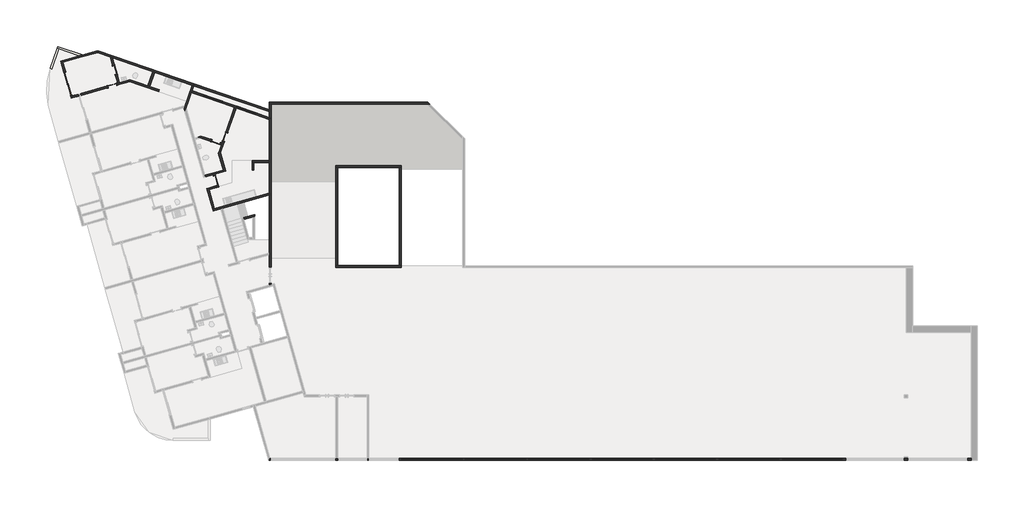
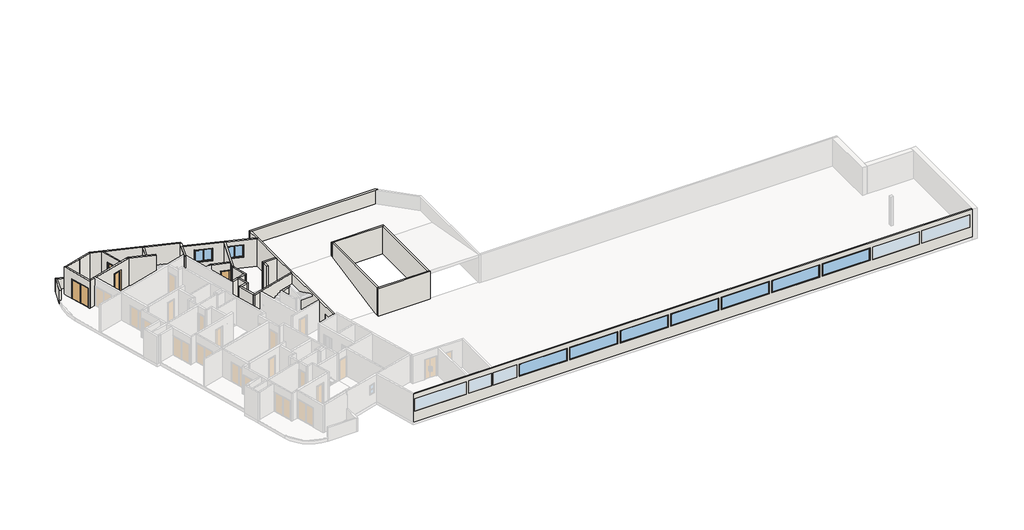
# One storey, part 3 of 4: 34 walls, 9 windows, 6 doors.
"""IFC4 building model written with IfcOpenShell, lengths in millimetres."""

from ifc_helpers import new_model, si_unit, frame, origin, place, context, project, spatial, polyline, outline, extrude, faceted_brep, transform, mapped, element, save
from components import p2_80cm_9d4be4ef, p3_70cm_ef4d15e3, p3_70cm_0a698c7c, p4_correr_200cm_eaaa0877, jx_160cm_e9e36a0c, m_fixo1_jf_4_75m_a83b1cd6

model = new_model("IFC4")

# Units and contexts
model_context = context("Model", 3, world=origin())
ifc_project = project(units=[si_unit("LENGTHUNIT", "METRE", prefix="MILLI")], contexts=[model_context])

# Site, building, storey
site = spatial("IfcSite", under=ifc_project)
building = spatial("IfcBuilding", under=site)
storey = spatial("IfcBuildingStorey", under=building, Name="Garagem 2", Elevation=44950.0)

# Doors
placement = place(None, origin())
p2_80cm_shape = p2_80cm_9d4be4ef(model_context)
element("IfcDoor", 1, ObjectType="M_Folha única1 : P2 - 80CM", at=placement, inside=storey, context=model_context, shape_type="MappedRepresentation", body=[
    mapped(p2_80cm_shape, transform((-79349.4097406, 25479.1041247, 44950.0), x_axis=(-0.27176796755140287, 0.962362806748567, 0.0), y_axis=(-0.962362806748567, -0.27176796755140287, 0.0), z_axis=(0.0, 0.0, 1.0))),
])
p3_70cm_shape = p3_70cm_ef4d15e3(model_context)
element("IfcDoor", 2, ObjectType="M_Folha única1 : P3 - 70CM", at=placement, inside=storey, context=model_context, shape_type="MappedRepresentation", body=[
    mapped(p3_70cm_shape, transform((-87513.806232, 32980.5300491, 44950.0), x_axis=(0.9623628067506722, 0.2717679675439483, 0.0), y_axis=(-0.2717679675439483, 0.9623628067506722, 0.0), z_axis=(0.0, 0.0, 1.0))),
])
p3_70cm_2_shape = p3_70cm_0a698c7c(model_context)
element("IfcDoor", 3, ObjectType="M_Folha única1 : P3 - 70CM", at=placement, inside=storey, context=model_context, shape_type="MappedRepresentation", body=[
    mapped(p3_70cm_2_shape, transform((-87314.304722, 34205.8663896, 44950.0), x_axis=(-0.2717679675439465, 0.9623628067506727, 0.0), y_axis=(-0.9623628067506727, -0.2717679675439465, 0.0), z_axis=(0.0, 0.0, 1.0))),
])
element("IfcDoor", 4, ObjectType="M_Folha única1 : P3 - 70CM", at=placement, inside=storey, context=model_context, shape_type="MappedRepresentation", body=[
    mapped(p3_70cm_2_shape, transform((-79346.1223746, 28509.6973665, 44950.0), x_axis=(0.9449109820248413, -0.32732741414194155, 0.0), y_axis=(0.32732741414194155, 0.9449109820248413, 0.0), z_axis=(0.0, 0.0, 1.0))),
])
element("IfcDoor", 5, ObjectType="M_Folha única1 : P3 - 70CM", at=placement, inside=storey, context=model_context, shape_type="MappedRepresentation", body=[
    mapped(p3_70cm_2_shape, transform((-78626.5662556, 28921.8732895, 44950.0), x_axis=(-0.32732741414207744, -0.9449109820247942, 0.0), y_axis=(0.9449109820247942, -0.32732741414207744, 0.0), z_axis=(0.0, 0.0, 1.0))),
])
p4_correr_200cm_shape = p4_correr_200cm_eaaa0877(model_context)
element("IfcDoor", 6, ObjectType="Porta de correr dupla envidraçada sem revestimento : P4 - CORRER - 200CM", at=placement, inside=storey, context=model_context, shape_type="MappedRepresentation", body=[
    mapped(p4_correr_200cm_shape, transform((-91005.8131296, 33111.4415743, 44950.0), x_axis=(0.2717679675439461, -0.9623628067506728, 0.0), y_axis=(0.9623628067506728, 0.2717679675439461, 0.0), z_axis=(0.0, 0.0, 1.0))),
])

# Walls
element("IfcWall", 7, ObjectType="Básica .15 - Externa", at=placement, inside=storey, context=model_context, shape_type="Brep", body=[
    faceted_brep([(-88662.6343714, 35591.588263, 44950.0), (-87688.240739, 35254.0477389, 44950.0), (-87515.4733556, 35194.1992432, 44950.0), (-84326.6881589, 34089.5694606, 44950.0), (-84184.9515116, 34040.4703485, 44950.0), (-81226.8582774, 33015.7547641, 44950.0), (-81156.3583355, 32991.3328194, 44950.0), (-81156.3583355, 32991.3328194, 46250.0), (-81085.1216301, 32966.655652, 46250.0), (-81085.1216301, 32966.655652, 47550.0), (-81156.3583355, 32991.3328194, 47550.0), (-81156.3583355, 32991.3328194, 47850.0), (-81226.8582774, 33015.7547641, 47850.0), (-84184.9515116, 34040.4703485, 47850.0), (-84326.6881589, 34089.5694606, 47850.0), (-87515.4733556, 35194.1992432, 47850.0), (-87688.240739, 35254.0477389, 47850.0), (-88662.6343714, 35591.588263, 47850.0), (-88658.0562773, 35748.7474739, 44950.0), (-88658.0562773, 35748.7474739, 47850.0), (-81107.2592234, 33133.0694667, 47850.0), (-81107.2592234, 33133.0694667, 47550.0), (-81036.022518, 33108.3922993, 47550.0), (-81036.022518, 33108.3922993, 46250.0), (-81107.2592234, 33133.0694667, 46250.0), (-81107.2592234, 33133.0694667, 44950.0)], [[[0, 1, 2, 3, 4, 5, 6, 7, 8, 9, 10, 11, 12, 13, 14, 15, 16, 17]], [[18, 19, 20, 21, 22, 23, 24, 25]], [[6, 5, 4, 3, 2, 1, 0, 18, 25]], [[17, 16, 15, 14, 13, 12, 11, 20, 19]], [[0, 17, 19, 18]], [[7, 6, 25, 24]], [[23, 8, 7, 24]], [[11, 10, 21, 20]], [[21, 10, 9, 22]], [[9, 8, 23, 22]]]),
])
element("IfcWall", 8, ObjectType="Básica .15 -  Interna", at=placement, inside=storey, context=model_context, shape_type="Brep", body=[
    faceted_brep([(-81789.2550074, 30934.0017027, 44950.0), (-81703.3880158, 31181.8778654, 44950.0), (-81272.8781344, 32424.6503839, 44950.0), (-81223.7790223, 32566.3870312, 44950.0), (-81085.1216301, 32966.655652, 44950.0), (-81085.1216301, 32966.655652, 46250.0), (-81085.1216301, 32966.655652, 47550.0), (-81085.1216301, 32966.655652, 47850.0), (-81223.7790223, 32566.3870312, 47850.0), (-81272.8781344, 32424.6503839, 47850.0), (-81703.3880158, 31181.8778654, 47850.0), (-81789.2550074, 30934.0017027, 47850.0), (-81860.5472267, 31186.4559595, 44950.0), (-81860.5472267, 31186.4559595, 47850.0), (-81845.4155775, 31230.1371819, 47850.0), (-81785.5670817, 31402.9045654, 47850.0), (-81226.8582774, 33015.7547641, 47850.0), (-81226.8582774, 33015.7547641, 44950.0), (-81785.5670817, 31402.9045654, 44950.0), (-81845.4155775, 31230.1371819, 44950.0), (-81156.3583355, 32991.3328194, 44950.0), (-81156.3583355, 32991.3328194, 47850.0)], [[[0, 1, 2, 3, 4, 5, 6, 7, 8, 9, 10, 11]], [[12, 13, 14, 15, 16, 17, 18, 19]], [[4, 3, 2, 1, 0, 12, 19, 18, 17, 20]], [[11, 10, 9, 8, 7, 21, 16, 15, 14, 13]], [[0, 11, 13, 12]], [[4, 20, 17, 16, 21, 7, 6, 5]]]),
])
element("IfcWall", 9, ObjectType="Básica .15 -  Interna", at=placement, inside=storey, context=model_context, shape_type="Brep", body=[
    faceted_brep([(-91449.9950574, 34960.3135045, 47850.0), (-91409.2298622, 34815.9590835, 47850.0), (-90661.8679515, 32169.4613651, 47850.0), (-90621.1027564, 32025.1069441, 47850.0), (-90621.1027564, 32025.1069441, 44950.0), (-90661.8679515, 32169.4613651, 44950.0), (-90661.8679515, 32169.4613651, 47050.0), (-91205.4038866, 34094.1869786, 47050.0), (-91205.4038866, 34094.1869786, 44950.0), (-91409.2298622, 34815.9590835, 44950.0), (-91449.9950574, 34960.3135045, 44950.0), (-90765.4571774, 31984.341749, 47850.0), (-91594.3494784, 34919.5483093, 47850.0), (-91594.3494784, 34919.5483093, 44950.0), (-91349.7583076, 34053.4217835, 44950.0), (-91349.7583076, 34053.4217835, 47050.0), (-90806.2223725, 32128.69617, 47050.0), (-90806.2223725, 32128.69617, 44950.0), (-90765.4571774, 31984.341749, 44950.0)], [[[0, 1, 2, 3, 4, 5, 6, 7, 8, 9, 10]], [[11, 12, 13, 14, 15, 16, 17, 18]], [[4, 18, 17, 5]], [[13, 10, 9, 8, 14]], [[3, 2, 1, 0, 12, 11]], [[4, 3, 11, 18]], [[16, 6, 5, 17]], [[6, 16, 15, 7]], [[7, 15, 14, 8]], [[0, 10, 13, 12]]]),
])
element("IfcWall", 10, ObjectType="Básica .15 - Externa", at=placement, inside=storey, context=model_context, shape_type="Brep", body=[
    faceted_brep([(-91871.4376954, 35923.0920443, 44650.0), (-91729.7010481, 35873.9929322, 44650.0), (-90151.0501028, 35327.1311202, 44650.0), (-90151.0501028, 35327.1311202, 46050.0), (-91729.7010481, 35873.9929322, 46050.0), (-91871.4376954, 35923.0920443, 46050.0), (-91822.3385833, 36064.8286916, 44650.0), (-91822.3385833, 36064.8286916, 46050.0), (-89898.595846, 35398.4233395, 46050.0), (-89898.595846, 35398.4233395, 44650.0)], [[[0, 1, 2, 3, 4, 5]], [[6, 7, 8, 9]], [[2, 1, 0, 6, 9]], [[5, 4, 3, 8, 7]], [[0, 5, 7, 6]], [[3, 2, 9, 8]]]),
])
element("IfcWall", 11, ObjectType="Básica .15 - Externa", at=placement, inside=storey, context=model_context, shape_type="SweptSolid", body=[
    extrude(outline(polyline([(-91729.7010481, 35873.9929322), (-92280.2794148, 34284.6132387), (-92422.0160621, 34333.7123509), (-91871.4376954, 35923.0920443), (-91729.7010481, 35873.9929322)])), frame((0.0, 0.0, 44650.0), z_axis=(0.0, 0.0, 1.0), x_axis=(1.0, 0.0, 0.0)), (0.0, 0.0, 1.0), 1400.0),
])
element("IfcWall", 12, ObjectType="Básica .15 -  Interna", at=placement, inside=storey, context=model_context, shape_type="Brep", body=[
    faceted_brep([(-79570.9048554, 23078.5590693, 44950.0), (-78948.2127609, 23254.4051886, 44950.0), (-78803.8582924, 23295.1703972, 44950.0), (-75147.8282189, 24327.6207947, 44950.0), (-75147.8282189, 24327.6207947, 47850.0), (-78803.8582924, 23295.1703972, 47850.0), (-78948.2127609, 23254.4051886, 47850.0), (-79570.9048554, 23078.5590693, 47850.0), (-79611.6700506, 23222.9134903, 44950.0), (-79611.6700506, 23222.9134903, 47850.0), (-79467.3156296, 23263.6786855, 47850.0), (-75147.8282189, 24483.4871675, 47850.0), (-75147.8282189, 24483.4871675, 44950.0), (-79467.3156296, 23263.6786855, 44950.0)], [[[0, 1, 2, 3, 4, 5, 6, 7]], [[8, 9, 10, 11, 12, 13]], [[3, 2, 1, 0, 8, 13, 12]], [[7, 6, 5, 4, 11, 10, 9]], [[0, 7, 9, 8]], [[4, 3, 12, 11]]]),
])
element("IfcWall", 13, ObjectType="Básica .15 -  Interna", at=placement, inside=storey, context=model_context, shape_type="Brep", body=[
    faceted_brep([(-75147.8282189, 17222.3804954, 47850.0), (-75147.8282189, 19601.4666134, 47850.0), (-75147.8282189, 19757.3329862, 47850.0), (-75147.8282189, 24327.6207947, 47850.0), (-75147.8282189, 24483.4871675, 47850.0), (-75147.8282189, 26910.8243598, 47850.0), (-75147.8282189, 27060.8243598, 47850.0), (-75147.8282189, 30302.8666514, 47850.0), (-75147.8282189, 30356.258394, 47850.0), (-75147.8282189, 30356.258394, 44950.0), (-75147.8282189, 30302.8666514, 44950.0), (-75147.8282189, 27060.8243598, 44950.0), (-75147.8282189, 26910.8243598, 44950.0), (-75147.8282189, 24483.4871675, 44950.0), (-75147.8282189, 24327.6207947, 44950.0), (-75147.8282189, 19757.3329862, 44950.0), (-75147.8282189, 19601.4666134, 44950.0), (-75147.8282189, 18602.5140353, 44950.0), (-75147.8282189, 18602.5140353, 47050.0), (-75147.8282189, 17402.5140353, 47050.0), (-75147.8282189, 17402.5140353, 44950.0), (-75147.8282189, 17222.3804954, 44950.0), (-74997.8282189, 30356.258394, 47850.0), (-74997.8282189, 17264.7399828, 47850.0), (-74997.8282189, 17264.7399828, 44950.0), (-74997.8282189, 17402.5140353, 44950.0), (-74997.8282189, 17402.5140353, 47050.0), (-74997.8282189, 18602.5140353, 47050.0), (-74997.8282189, 18602.5140353, 44950.0), (-74997.8282189, 30356.258394, 44950.0)], [[[0, 1, 2, 3, 4, 5, 6, 7, 8, 9, 10, 11, 12, 13, 14, 15, 16, 17, 18, 19, 20, 21]], [[22, 23, 24, 25, 26, 27, 28, 29]], [[24, 21, 20, 25]], [[9, 29, 28, 17, 16, 15, 14, 13, 12, 11, 10]], [[8, 7, 6, 5, 4, 3, 2, 1, 0, 23, 22]], [[9, 8, 22, 29]], [[0, 21, 24, 23]], [[19, 26, 25, 20]], [[26, 19, 18, 27]], [[27, 18, 17, 28]]]),
])
element("IfcWall", 14, ObjectType="Básica .15 -  Interna", at=placement, inside=storey, context=model_context, shape_type="Brep", body=[
    faceted_brep([(-80073.6755954, 24858.9302618, 44950.0), (-79611.6700506, 23222.9134903, 44950.0), (-79611.6700506, 23222.9134903, 47850.0), (-80073.6755954, 24858.9302618, 47850.0), (-79929.3211744, 24899.695457, 44950.0), (-79929.3211744, 24899.695457, 47850.0), (-79888.5559793, 24755.3410359, 47850.0), (-79467.3156296, 23263.6786855, 47850.0), (-79467.3156296, 23263.6786855, 44950.0), (-79888.5559793, 24755.3410359, 44950.0)], [[[0, 1, 2, 3]], [[4, 5, 6, 7, 8, 9]], [[1, 0, 4, 9, 8]], [[3, 2, 7, 6, 5]], [[0, 3, 5, 4]], [[2, 1, 8, 7]]]),
])
element("IfcWall", 15, ObjectType="Básica .15 -  Interna", at=placement, inside=storey, context=model_context, shape_type="Brep", body=[
    faceted_brep([(-79888.5559793, 24755.3410359, 44950.0), (-79272.1145689, 24929.4219834, 44950.0), (-79272.1145689, 24929.4219834, 47850.0), (-79888.5559793, 24755.3410359, 47850.0), (-79929.3211744, 24899.695457, 44950.0), (-79929.3211744, 24899.695457, 47850.0), (-79312.8797641, 25073.7764044, 47850.0), (-79312.8797641, 25073.7764044, 47050.0), (-79312.8797641, 25073.7764044, 44950.0)], [[[0, 1, 2, 3]], [[4, 5, 6, 7, 8]], [[1, 0, 4, 8]], [[3, 2, 6, 5]], [[0, 3, 5, 4]], [[2, 1, 8, 7, 6]]]),
])
element("IfcWall", 16, ObjectType="Básica .15 -  Interna", at=placement, inside=storey, context=model_context, shape_type="Brep", body=[
    faceted_brep([(-79598.23613, 26084.2573515, 44950.0), (-79557.4709349, 25939.9029305, 44950.0), (-79530.2941381, 25843.6666498, 44950.0), (-79530.2941381, 25843.6666498, 47050.0), (-79312.8797641, 25073.7764044, 47050.0), (-79312.8797641, 25073.7764044, 44950.0), (-79272.1145689, 24929.4219834, 44950.0), (-79272.1145689, 24929.4219834, 47850.0), (-79312.8797641, 25073.7764044, 47850.0), (-79557.4709349, 25939.9029305, 47850.0), (-79598.23613, 26084.2573515, 47850.0), (-79385.9397171, 25884.4318449, 47050.0), (-79385.9397171, 25884.4318449, 44950.0), (-79413.1165138, 25980.6681256, 44950.0), (-79453.881709, 26125.0225466, 44950.0), (-79453.881709, 26125.0225466, 47850.0), (-79413.1165138, 25980.6681256, 47850.0), (-79127.7601479, 24970.1871785, 47850.0), (-79127.7601479, 24970.1871785, 44950.0), (-79168.5253431, 25114.5415995, 44950.0), (-79168.5253431, 25114.5415995, 47050.0)], [[[0, 1, 2, 3, 4, 5, 6, 7, 8, 9, 10]], [[11, 12, 13, 14, 15, 16, 17, 18, 19, 20]], [[19, 18, 6, 5]], [[14, 13, 12, 2, 1, 0]], [[10, 9, 8, 7, 17, 16, 15]], [[7, 6, 18, 17]], [[0, 10, 15, 14]], [[3, 2, 12, 11]], [[4, 3, 11, 20]], [[5, 4, 20, 19]]]),
])
element("IfcWall", 17, ObjectType="Básica .15 - Externa", at=placement, inside=storey, context=model_context, shape_type="SweptSolid", body=[
    extrude(outline(polyline([(-89921.2674906, 35392.0209445), (-88658.0562773, 35748.7474739), (-88662.6343714, 35591.588263), (-89880.5022955, 35247.6665235), (-89921.2674906, 35392.0209445)])), frame((0.0, 0.0, 44950.0), z_axis=(0.0, 0.0, 1.0), x_axis=(1.0, 0.0, 0.0)), (0.0, 0.0, 1.0), 2900.0),
])
element("IfcWall", 18, ObjectType="Básica .15 -  Interna", at=placement, inside=storey, context=model_context, shape_type="Brep", body=[
    faceted_brep([(-90184.5077758, 32304.2662473, 44950.0), (-90661.8679515, 32169.4613651, 44950.0), (-90661.8679515, 32169.4613651, 47050.0), (-90661.8679515, 32169.4613651, 47850.0), (-90184.5077758, 32304.2662473, 47850.0), (-90143.7425806, 32159.9118263, 44950.0), (-90143.7425806, 32159.9118263, 47050.0), (-90143.7425806, 32159.9118263, 47850.0), (-90621.1027564, 32025.1069441, 47850.0), (-90621.1027564, 32025.1069441, 44950.0)], [[[0, 1, 2, 3, 4]], [[5, 6, 7, 8, 9]], [[1, 0, 5, 9]], [[4, 3, 8, 7]], [[0, 4, 7, 6, 5]], [[3, 2, 1, 9, 8]]]),
])
element("IfcWall", 19, ObjectType="Básica .15 -  Interna", at=placement, inside=storey, context=model_context, shape_type="SweptSolid", body=[
    extrude(outline(polyline([(-79557.4709349, 25939.9029305), (-80173.9123452, 25765.821983), (-80214.6775403, 25910.176404), (-79598.23613, 26084.2573515), (-79557.4709349, 25939.9029305)])), frame((0.0, 0.0, 44950.0), z_axis=(0.0, 0.0, 1.0), x_axis=(1.0, 0.0, 0.0)), (0.0, 0.0, 1.0), 2900.0),
])
element("IfcWall", 20, ObjectType="Básica .15 -  Interna", at=placement, inside=storey, context=model_context, shape_type="Brep", body=[
    faceted_brep([(-81272.8781344, 32424.6503839, 44950.0), (-77897.5766162, 31255.4093243, 44950.0), (-77755.8399689, 31206.3102121, 44950.0), (-75147.8282189, 30302.8666514, 44950.0), (-75147.8282189, 30302.8666514, 47850.0), (-77755.8399689, 31206.3102121, 47850.0), (-77897.5766162, 31255.4093243, 47850.0), (-81272.8781344, 32424.6503839, 47850.0), (-78829.2985897, 31578.1679228, 46050.0), (-80341.1561609, 32101.8917854, 46050.0), (-80341.1561609, 32101.8917854, 47350.0), (-78829.2985897, 31578.1679228, 47350.0), (-76243.9823976, 30682.5863495, 46050.0), (-77755.8399689, 31206.3102121, 46050.0), (-77755.8399689, 31206.3102121, 47350.0), (-76243.9823976, 30682.5863495, 47350.0), (-81223.7790223, 32566.3870312, 44950.0), (-81223.7790223, 32566.3870312, 47850.0), (-75147.8282189, 30461.6117638, 47850.0), (-75147.8282189, 30461.6117638, 44950.0), (-78780.1994776, 31719.9045701, 46050.0), (-78780.1994776, 31719.9045701, 47350.0), (-80292.0570488, 32243.6284327, 47350.0), (-80292.0570488, 32243.6284327, 46050.0), (-76194.8832855, 30824.3229968, 46050.0), (-76194.8832855, 30824.3229968, 47350.0), (-77706.7408568, 31348.0468595, 47350.0), (-77706.7408568, 31348.0468595, 46050.0), (-75147.8282189, 30356.258394, 44950.0), (-75147.8282189, 30356.258394, 47850.0)], [[[0, 1, 2, 3, 4, 5, 6, 7], [8, 9, 10, 11], [12, 13, 14, 15]], [[16, 17, 18, 19], [20, 21, 22, 23], [24, 25, 26, 27]], [[3, 2, 1, 0, 16, 19, 28]], [[7, 6, 5, 4, 29, 18, 17]], [[0, 7, 17, 16]], [[21, 20, 8, 11]], [[22, 21, 11, 10]], [[23, 22, 10, 9]], [[20, 23, 9, 8]], [[25, 24, 12, 15]], [[26, 25, 15, 14]], [[27, 26, 14, 13]], [[24, 27, 13, 12]], [[4, 3, 28, 19, 18, 29]]]),
])
element("IfcWall", 21, ObjectType="Básica .15 - Externa", at=placement, inside=storey, context=model_context, shape_type="Brep", body=[
    faceted_brep([(-81156.3583355, 32991.3328194, 46250.0), (-81156.3583355, 32991.3328194, 44950.0), (-81156.3583355, 32991.3328194, 44650.0), (-81085.1216301, 32966.655652, 44650.0), (-75147.8282189, 30909.9128092, 44650.0), (-75147.8282189, 30909.9128092, 46250.0), (-81085.1216301, 32966.655652, 46250.0), (-81107.2592234, 33133.0694667, 44650.0), (-81107.2592234, 33133.0694667, 44950.0), (-81107.2592234, 33133.0694667, 46250.0), (-81036.022518, 33108.3922993, 46250.0), (-75147.8282189, 31068.6579216, 46250.0), (-75147.8282189, 31068.6579216, 44650.0), (-81036.022518, 33108.3922993, 44650.0)], [[[0, 1, 2, 3, 4, 5, 6]], [[7, 8, 9, 10, 11, 12, 13]], [[4, 3, 2, 7, 13, 12]], [[0, 6, 5, 11, 10, 9]], [[0, 9, 8, 7, 2, 1]], [[4, 12, 11, 5]]]),
])
element("IfcWall", 22, ObjectType="Básica .15 -  Interna", at=placement, inside=storey, context=model_context, shape_type="SweptSolid", body=[
    extrude(outline(polyline([(-91449.9950574, 34960.3135045), (-89921.2674906, 35392.0209445), (-89880.5022955, 35247.6665235), (-91409.2298622, 34815.9590835), (-91449.9950574, 34960.3135045)])), frame((0.0, 0.0, 44950.0), z_axis=(0.0, 0.0, 1.0), x_axis=(1.0, 0.0, 0.0)), (0.0, 0.0, 1.0), 2900.0),
])
element("IfcWall", 23, ObjectType="Básica .15 -  Interna", at=placement, inside=storey, context=model_context, shape_type="Brep", body=[
    faceted_brep([(-83821.815623, 32644.7152387, 44950.0), (-84577.7444086, 32906.57717, 44950.0), (-84719.4810559, 32955.6762822, 44950.0), (-86137.8721095, 33447.0223292, 44950.0), (-86137.8721095, 33447.0223292, 47850.0), (-84719.4810559, 32955.6762822, 47850.0), (-84577.7444086, 32906.57717, 47850.0), (-83821.815623, 32644.7152387, 47850.0), (-83870.9147351, 32502.9785914, 44950.0), (-83870.9147351, 32502.9785914, 47850.0), (-86142.4502035, 33289.8631183, 47850.0), (-86390.3263662, 33375.7301099, 47850.0), (-86390.3263662, 33375.7301099, 44950.0), (-86142.4502035, 33289.8631183, 44950.0)], [[[0, 1, 2, 3, 4, 5, 6, 7]], [[8, 9, 10, 11, 12, 13]], [[3, 2, 1, 0, 8, 13, 12]], [[7, 6, 5, 4, 11, 10, 9]], [[0, 7, 9, 8]], [[4, 3, 12, 11]]]),
])
element("IfcWall", 24, ObjectType="Básica .15 -  Interna", at=placement, inside=storey, context=model_context, shape_type="Brep", body=[
    faceted_brep([(-86390.3263662, 33375.7301099, 44950.0), (-86956.7711455, 33215.7680402, 44950.0), (-87101.1255666, 33175.002845, 44950.0), (-87197.3618472, 33147.8260483, 44950.0), (-87197.3618472, 33147.8260483, 47050.0), (-87871.015812, 32957.588471, 47050.0), (-87871.015812, 32957.588471, 44950.0), (-90040.1533547, 32345.0314424, 44950.0), (-90040.1533547, 32345.0314424, 47850.0), (-87101.1255666, 33175.002845, 47850.0), (-86956.7711455, 33215.7680402, 47850.0), (-86390.3263662, 33375.7301099, 47850.0), (-87156.5966521, 33003.4716273, 47050.0), (-87156.5966521, 33003.4716273, 44950.0), (-86142.4502035, 33289.8631183, 44950.0), (-86142.4502035, 33289.8631183, 47850.0), (-89999.3881596, 32200.6770214, 47850.0), (-89999.3881596, 32200.6770214, 47050.0), (-89999.3881596, 32200.6770214, 44950.0), (-87830.2506168, 32813.23405, 44950.0), (-87830.2506168, 32813.23405, 47050.0)], [[[0, 1, 2, 3, 4, 5, 6, 7, 8, 9, 10, 11]], [[12, 13, 14, 15, 16, 17, 18, 19, 20]], [[19, 18, 7, 6]], [[14, 13, 3, 2, 1, 0]], [[11, 10, 9, 8, 16, 15]], [[4, 3, 13, 12]], [[5, 4, 12, 20]], [[6, 5, 20, 19]], [[0, 11, 15, 14]], [[8, 7, 18, 17, 16]]]),
])
element("IfcWall", 25, ObjectType="Básica .15 -  Interna", at=placement, inside=storey, context=model_context, shape_type="SweptSolid", body=[
    extrude(outline(polyline([(-84184.9515116, 34040.4703485), (-84577.7444086, 32906.57717), (-84719.4810559, 32955.6762822), (-84326.6881589, 34089.5694606), (-84184.9515116, 34040.4703485)])), frame((0.0, 0.0, 44950.0), z_axis=(0.0, 0.0, 1.0), x_axis=(1.0, 0.0, 0.0)), (0.0, 0.0, 1.0), 2900.0),
])
element("IfcWall", 26, ObjectType="Básica .15 -  Interna", at=placement, inside=storey, context=model_context, shape_type="Brep", body=[
    faceted_brep([(-87337.2463001, 34563.0759696, 47050.0), (-87337.2463001, 34563.0759696, 44950.0), (-87515.4733556, 35194.1992432, 44950.0), (-87515.4733556, 35194.1992432, 47850.0), (-86956.7711455, 33215.7680402, 47850.0), (-86956.7711455, 33215.7680402, 44950.0), (-87147.0087228, 33889.4220048, 44950.0), (-87147.0087228, 33889.4220048, 47050.0), (-87688.240739, 35254.0477389, 44950.0), (-87481.6007211, 34522.3107744, 44950.0), (-87481.6007211, 34522.3107744, 47050.0), (-87291.3631438, 33848.6568097, 47050.0), (-87291.3631438, 33848.6568097, 44950.0), (-87101.1255666, 33175.002845, 44950.0), (-87101.1255666, 33175.002845, 47850.0), (-87688.240739, 35254.0477389, 47850.0)], [[[0, 1, 2, 3, 4, 5, 6, 7]], [[8, 9, 10, 11, 12, 13, 14, 15]], [[6, 5, 13, 12]], [[2, 1, 9, 8]], [[4, 3, 15, 14]], [[10, 9, 1, 0]], [[11, 10, 0, 7]], [[12, 11, 7, 6]], [[5, 4, 14, 13]], [[3, 2, 8, 15]]]),
])
element("IfcWall", 27, ObjectType="Básica .15 -  Interna", at=placement, inside=storey, context=model_context, shape_type="Brep", body=[
    faceted_brep([(-76493.6479314, 26910.8243598, 44950.0), (-76343.6479314, 26910.8243598, 44950.0), (-75147.8282189, 26910.8243598, 44950.0), (-75147.8282189, 26910.8243598, 47850.0), (-76343.6479314, 26910.8243598, 47850.0), (-76493.6479314, 26910.8243598, 47850.0), (-76493.6479314, 27060.8243598, 44950.0), (-76493.6479314, 27060.8243598, 47850.0), (-75147.8282189, 27060.8243598, 47850.0), (-75147.8282189, 27060.8243598, 44950.0)], [[[0, 1, 2, 3, 4, 5]], [[6, 7, 8, 9]], [[2, 1, 0, 6, 9]], [[5, 4, 3, 8, 7]], [[0, 5, 7, 6]], [[3, 2, 9, 8]]]),
])
element("IfcWall", 28, ObjectType="Básica .15 -  Interna", at=placement, inside=storey, context=model_context, shape_type="SweptSolid", body=[
    extrude(outline(polyline([(-76343.6479314, 26910.8243598), (-76343.6479314, 26310.8243598), (-76493.6479314, 26310.8243598), (-76493.6479314, 26910.8243598), (-76343.6479314, 26910.8243598)])), frame((0.0, 0.0, 44950.0), z_axis=(0.0, 0.0, 1.0), x_axis=(1.0, 0.0, 0.0)), (0.0, 0.0, 1.0), 2900.0),
])
element("IfcWall", 29, ObjectType="Básica .15 -  Interna", at=placement, inside=storey, context=model_context, shape_type="Brep", body=[
    faceted_brep([(-78877.464657, 28426.7218055, 44950.0), (-78990.8539749, 28466.0010952, 44950.0), (-78990.8539749, 28466.0010952, 47050.0), (-79652.2916623, 28695.1302851, 47050.0), (-79652.2916623, 28695.1302851, 44950.0), (-80525.6718652, 28997.6786614, 44950.0), (-80525.6718652, 28997.6786614, 47850.0), (-78877.464657, 28426.7218055, 47850.0), (-79039.953087, 28324.2644479, 47050.0), (-79039.953087, 28324.2644479, 44950.0), (-78926.5637691, 28284.9851582, 44950.0), (-78926.5637691, 28284.9851582, 47850.0), (-80530.2499593, 28840.5194505, 47850.0), (-80778.126122, 28926.3864421, 47850.0), (-80778.126122, 28926.3864421, 44950.0), (-80530.2499593, 28840.5194505, 44950.0), (-79701.3907744, 28553.3936378, 44950.0), (-79701.3907744, 28553.3936378, 47050.0)], [[[0, 1, 2, 3, 4, 5, 6, 7]], [[8, 9, 10, 11, 12, 13, 14, 15, 16, 17]], [[10, 9, 1, 0]], [[16, 15, 14, 5, 4]], [[7, 6, 13, 12, 11]], [[2, 1, 9, 8]], [[3, 2, 8, 17]], [[4, 3, 17, 16]], [[6, 5, 14, 13]], [[0, 7, 11, 10]]]),
])
element("IfcWall", 30, ObjectType="Básica .15 -  Interna", at=placement, inside=storey, context=model_context, shape_type="Brep", body=[
    faceted_brep([(-79146.9727346, 27648.7205404, 44950.0), (-78771.1333302, 26317.8283554, 44950.0), (-78730.3681351, 26173.4739343, 44950.0), (-78730.3681351, 26173.4739343, 47850.0), (-78771.1333302, 26317.8283554, 47850.0), (-79146.9727346, 27648.7205404, 47850.0), (-79061.105743, 27896.5967032, 44950.0), (-79061.105743, 27896.5967032, 47850.0), (-78989.8135237, 27644.1424464, 47850.0), (-78586.013714, 26214.2391295, 47850.0), (-78586.013714, 26214.2391295, 44950.0), (-78989.8135237, 27644.1424464, 44950.0)], [[[0, 1, 2, 3, 4, 5]], [[6, 7, 8, 9, 10, 11]], [[2, 1, 0, 6, 11, 10]], [[5, 4, 3, 9, 8, 7]], [[0, 5, 7, 6]], [[3, 2, 10, 9]]]),
])
element("IfcWall", 31, ObjectType="Básica .15 -  Interna", at=placement, inside=storey, context=model_context, shape_type="Brep", body=[
    faceted_brep([(-78811.9991742, 28615.7040019, 47050.0), (-78811.9991742, 28615.7040019, 44950.0), (-78877.464657, 28426.7218055, 44950.0), (-78926.5637691, 28284.9851582, 44950.0), (-79061.105743, 27896.5967032, 44950.0), (-79061.105743, 27896.5967032, 47850.0), (-78926.5637691, 28284.9851582, 47850.0), (-78877.464657, 28426.7218055, 47850.0), (-77897.5766162, 31255.4093243, 47850.0), (-77897.5766162, 31255.4093243, 44950.0), (-78582.8699843, 29277.1416893, 44950.0), (-78582.8699843, 29277.1416893, 47050.0), (-78989.8135237, 27644.1424464, 44950.0), (-78670.2625269, 28566.6048898, 44950.0), (-78670.2625269, 28566.6048898, 47050.0), (-78441.133337, 29228.0425772, 47050.0), (-78441.133337, 29228.0425772, 44950.0), (-77755.8399689, 31206.3102121, 44950.0), (-77755.8399689, 31206.3102121, 46050.0), (-77755.8399689, 31206.3102121, 47350.0), (-77755.8399689, 31206.3102121, 47850.0), (-78989.8135237, 27644.1424464, 47850.0)], [[[0, 1, 2, 3, 4, 5, 6, 7, 8, 9, 10, 11]], [[12, 13, 14, 15, 16, 17, 18, 19, 20, 21]], [[10, 9, 17, 16]], [[4, 3, 2, 1, 13, 12]], [[8, 7, 6, 5, 21, 20]], [[14, 13, 1, 0]], [[15, 14, 0, 11]], [[16, 15, 11, 10]], [[5, 4, 12, 21]], [[9, 8, 20, 19, 18, 17]]]),
])
element("IfcWall", 32, ObjectType="Básica .15 -  Interna", at=placement, inside=storey, context=model_context, shape_type="SweptSolid", body=[
    extrude(outline(polyline([(-78730.3681351, 26173.4739343), (-79413.1165138, 25980.6681256), (-79453.881709, 26125.0225466), (-78771.1333302, 26317.8283554), (-78730.3681351, 26173.4739343)])), frame((0.0, 0.0, 44950.0), z_axis=(0.0, 0.0, 1.0), x_axis=(1.0, 0.0, 0.0)), (0.0, 0.0, 1.0), 2900.0),
])
element("IfcWall", 33, ObjectType="Básica .15 -  Interna", at=placement, inside=storey, context=model_context, shape_type="Brep", body=[
    faceted_brep([(-77152.5348621, 22408.8989724, 44950.0), (-76425.2862396, 22614.2714979, 44950.0), (-76275.2862396, 22656.6309852, 44950.0), (-76275.2862396, 22656.6309852, 47850.0), (-76425.2862396, 22614.2714979, 47850.0), (-77152.5348621, 22408.8989724, 47850.0), (-77193.3000572, 22553.2533934, 44950.0), (-77193.3000572, 22553.2533934, 47850.0), (-76275.2862396, 22812.497358, 47850.0), (-76275.2862396, 22812.497358, 44950.0)], [[[0, 1, 2, 3, 4, 5]], [[6, 7, 8, 9]], [[2, 1, 0, 6, 9]], [[5, 4, 3, 8, 7]], [[0, 5, 7, 6]], [[3, 2, 9, 8]]]),
])
element("IfcWall", 34, ObjectType="Básica .15 - Externa", at=placement, inside=storey, context=model_context, shape_type="Brep", body=[
    faceted_brep([(-75147.8282189, 31523.8506069, 44950.0), (-74997.8282189, 31523.8506069, 44950.0), (-62701.4234226, 31523.8506069, 44950.0), (-62488.2173225, 31523.8506069, 44950.0), (-62488.2173225, 31523.8506069, 47850.0), (-62701.4234226, 31523.8506069, 47850.0), (-74997.8282189, 31523.8506069, 47850.0), (-75147.8282189, 31523.8506069, 47850.0), (-75147.8282189, 31673.8506069, 44950.0), (-75147.8282189, 31673.8506069, 47850.0), (-62639.732474, 31673.8506069, 47850.0), (-62639.732474, 31673.8506069, 44950.0)], [[[0, 1, 2, 3, 4, 5, 6, 7]], [[8, 9, 10, 11]], [[3, 2, 1, 0, 8, 11]], [[7, 6, 5, 4, 10, 9]], [[4, 3, 11, 10]], [[0, 7, 9, 8]]]),
])
element("IfcWall", 35, ObjectType="Básica .15 - Externa", at=placement, inside=storey, context=model_context, shape_type="Brep", body=[
    faceted_brep([(-75195.6613336, 3411.0495751, 44950.0), (-24878.6137209, 3411.0495751, 44950.0), (-19778.6137209, 3411.0495751, 44950.0), (-19778.6137209, 3411.0495751, 47850.0), (-75195.6613336, 3411.0495751, 47850.0), (-25045.8696428, 3411.0495751, 47350.0), (-25045.8696428, 3411.0495751, 46050.0), (-29675.8696428, 3411.0495751, 46050.0), (-29675.8696428, 3411.0495751, 47350.0), (-29925.8696428, 3411.0495751, 47350.0), (-29925.8696428, 3411.0495751, 46050.0), (-34675.8696428, 3411.0495751, 46050.0), (-34675.8696428, 3411.0495751, 47350.0), (-34925.8696428, 3411.0495751, 47350.0), (-34925.8696428, 3411.0495751, 46050.0), (-39675.8696428, 3411.0495751, 46050.0), (-39675.8696428, 3411.0495751, 47350.0), (-39925.8696428, 3411.0495751, 47350.0), (-39925.8696428, 3411.0495751, 46050.0), (-44675.8696428, 3411.0495751, 46050.0), (-44675.8696428, 3411.0495751, 47350.0), (-44925.8696428, 3411.0495751, 47350.0), (-44925.8696428, 3411.0495751, 46050.0), (-49675.8696428, 3411.0495751, 46050.0), (-49675.8696428, 3411.0495751, 47350.0), (-59925.8696428, 3411.0495751, 47350.0), (-59925.8696428, 3411.0495751, 46050.0), (-64675.8696428, 3411.0495751, 46050.0), (-64675.8696428, 3411.0495751, 47350.0), (-49925.8696428, 3411.0495751, 47350.0), (-49925.8696428, 3411.0495751, 46050.0), (-54675.8696428, 3411.0495751, 46050.0), (-54675.8696428, 3411.0495751, 47350.0), (-54925.8696428, 3411.0495751, 47350.0), (-54925.8696428, 3411.0495751, 46050.0), (-59675.8696428, 3411.0495751, 46050.0), (-59675.8696428, 3411.0495751, 47350.0), (-20045.8696428, 3411.0495751, 47350.0), (-20045.8696428, 3411.0495751, 46050.0), (-24795.8696428, 3411.0495751, 46050.0), (-24795.8696428, 3411.0495751, 47350.0), (-69925.8696428, 3411.0495751, 47350.0), (-69925.8696428, 3411.0495751, 46050.0), (-75025.8696428, 3411.0495751, 46050.0), (-75025.8696428, 3411.0495751, 47350.0), (-67428.6137209, 3411.0495751, 46050.0), (-69678.6137209, 3411.0495751, 46050.0), (-69678.6137209, 3411.0495751, 47350.0), (-67428.6137209, 3411.0495751, 47350.0), (-64925.8696428, 3411.0495751, 47350.0), (-64925.8696428, 3411.0495751, 46050.0), (-67275.8696428, 3411.0495751, 46050.0), (-67275.8696428, 3411.0495751, 47350.0), (-19778.6137209, 3561.0495751, 44950.0), (-24878.6137209, 3561.0495751, 44950.0), (-67278.6137209, 3561.0495751, 44950.0), (-67428.6137209, 3561.0495751, 44950.0), (-69728.6137209, 3561.0495751, 44950.0), (-69878.6137209, 3561.0495751, 44950.0), (-75082.1544481, 3561.0495751, 44950.0), (-75082.1544481, 3561.0495751, 47850.0), (-69878.6137209, 3561.0495751, 47850.0), (-69728.6137209, 3561.0495751, 47850.0), (-67428.6137209, 3561.0495751, 47850.0), (-67278.6137209, 3561.0495751, 47850.0), (-19778.6137209, 3561.0495751, 47850.0), (-25045.8696428, 3561.0495751, 46050.0), (-25045.8696428, 3561.0495751, 47350.0), (-29675.8696428, 3561.0495751, 47350.0), (-29675.8696428, 3561.0495751, 46050.0), (-29925.8696428, 3561.0495751, 46050.0), (-29925.8696428, 3561.0495751, 47350.0), (-34675.8696428, 3561.0495751, 47350.0), (-34675.8696428, 3561.0495751, 46050.0), (-34925.8696428, 3561.0495751, 46050.0), (-34925.8696428, 3561.0495751, 47350.0), (-39675.8696428, 3561.0495751, 47350.0), (-39675.8696428, 3561.0495751, 46050.0), (-39925.8696428, 3561.0495751, 46050.0), (-39925.8696428, 3561.0495751, 47350.0), (-44675.8696428, 3561.0495751, 47350.0), (-44675.8696428, 3561.0495751, 46050.0), (-44925.8696428, 3561.0495751, 46050.0), (-44925.8696428, 3561.0495751, 47350.0), (-49675.8696428, 3561.0495751, 47350.0), (-49675.8696428, 3561.0495751, 46050.0), (-59925.8696428, 3561.0495751, 46050.0), (-59925.8696428, 3561.0495751, 47350.0), (-64675.8696428, 3561.0495751, 47350.0), (-64675.8696428, 3561.0495751, 46050.0), (-49925.8696428, 3561.0495751, 46050.0), (-49925.8696428, 3561.0495751, 47350.0), (-54675.8696428, 3561.0495751, 47350.0), (-54675.8696428, 3561.0495751, 46050.0), (-54925.8696428, 3561.0495751, 46050.0), (-54925.8696428, 3561.0495751, 47350.0), (-59675.8696428, 3561.0495751, 47350.0), (-59675.8696428, 3561.0495751, 46050.0), (-20045.8696428, 3561.0495751, 46050.0), (-20045.8696428, 3561.0495751, 47350.0), (-24795.8696428, 3561.0495751, 47350.0), (-24795.8696428, 3561.0495751, 46050.0), (-69925.8696428, 3561.0495751, 46050.0), (-69925.8696428, 3561.0495751, 47350.0), (-75025.8696428, 3561.0495751, 47350.0), (-75025.8696428, 3561.0495751, 46050.0), (-67428.6137209, 3561.0495751, 46050.0), (-67428.6137209, 3561.0495751, 47350.0), (-69678.6137209, 3561.0495751, 47350.0), (-69678.6137209, 3561.0495751, 46050.0), (-64925.8696428, 3561.0495751, 46050.0), (-64925.8696428, 3561.0495751, 47350.0), (-67275.8696428, 3561.0495751, 47350.0), (-67275.8696428, 3561.0495751, 46050.0)], [[[0, 1, 2, 3, 4], [5, 6, 7, 8], [9, 10, 11, 12], [13, 14, 15, 16], [17, 18, 19, 20], [21, 22, 23, 24], [25, 26, 27, 28], [29, 30, 31, 32], [33, 34, 35, 36], [37, 38, 39, 40], [41, 42, 43, 44], [45, 46, 47, 48], [49, 50, 51, 52]], [[53, 54, 55, 56, 57, 58, 59, 60, 61, 62, 63, 64, 65], [66, 67, 68, 69], [70, 71, 72, 73], [74, 75, 76, 77], [78, 79, 80, 81], [82, 83, 84, 85], [86, 87, 88, 89], [90, 91, 92, 93], [94, 95, 96, 97], [98, 99, 100, 101], [102, 103, 104, 105], [106, 107, 108, 109], [110, 111, 112, 113]], [[2, 1, 0, 59, 58, 57, 56, 55, 54, 53]], [[4, 3, 65, 64, 63, 62, 61, 60]], [[3, 2, 53, 65]], [[67, 66, 6, 5]], [[68, 67, 5, 8]], [[69, 68, 8, 7]], [[66, 69, 7, 6]], [[71, 70, 10, 9]], [[72, 71, 9, 12]], [[73, 72, 12, 11]], [[70, 73, 11, 10]], [[75, 74, 14, 13]], [[76, 75, 13, 16]], [[77, 76, 16, 15]], [[74, 77, 15, 14]], [[79, 78, 18, 17]], [[80, 79, 17, 20]], [[81, 80, 20, 19]], [[78, 81, 19, 18]], [[83, 82, 22, 21]], [[84, 83, 21, 24]], [[85, 84, 24, 23]], [[82, 85, 23, 22]], [[87, 86, 26, 25]], [[88, 87, 25, 28]], [[89, 88, 28, 27]], [[86, 89, 27, 26]], [[91, 90, 30, 29]], [[92, 91, 29, 32]], [[93, 92, 32, 31]], [[90, 93, 31, 30]], [[95, 94, 34, 33]], [[96, 95, 33, 36]], [[97, 96, 36, 35]], [[94, 97, 35, 34]], [[99, 98, 38, 37]], [[100, 99, 37, 40]], [[101, 100, 40, 39]], [[98, 101, 39, 38]], [[102, 42, 41, 103]], [[103, 41, 44, 104]], [[42, 102, 105, 43]], [[43, 105, 104, 44]], [[107, 106, 45, 48]], [[108, 107, 48, 47]], [[109, 108, 47, 46]], [[106, 109, 46, 45]], [[110, 50, 49, 111]], [[111, 49, 52, 112]], [[112, 52, 51, 113]], [[50, 110, 113, 51]], [[59, 0, 4, 60]]]),
])
element("IfcWall", 36, ObjectType="Básica .15 -  Interna", at=placement, inside=storey, context=model_context, shape_type="Brep", body=[
    faceted_brep([(-69878.6137209, 18631.1774637, 44950.0), (-64728.6137209, 18631.1774637, 44950.0), (-64728.6137209, 18631.1774637, 47850.0), (-69878.6137209, 18631.1774637, 47850.0), (-69878.6137209, 18781.1774637, 44950.0), (-69878.6137209, 18781.1774637, 47850.0), (-69728.6137209, 18781.1774637, 47850.0), (-64878.6137209, 18781.1774637, 47850.0), (-64728.6137209, 18781.1774637, 47850.0), (-64728.6137209, 18781.1774637, 44950.0), (-64878.6137209, 18781.1774637, 44950.0), (-69728.6137209, 18781.1774637, 44950.0)], [[[0, 1, 2, 3]], [[4, 5, 6, 7, 8, 9, 10, 11]], [[1, 0, 4, 11, 10, 9]], [[3, 2, 8, 7, 6, 5]], [[0, 3, 5, 4]], [[2, 1, 9, 8]]]),
])
element("IfcWall", 37, ObjectType="Básica .15 -  Interna", at=placement, inside=storey, context=model_context, shape_type="Brep", body=[
    faceted_brep([(-69878.6137209, 26523.5266097, 44950.0), (-69728.6137209, 26523.5266097, 44950.0), (-64878.6137209, 26523.5266097, 44950.0), (-64728.6137209, 26523.5266097, 44950.0), (-64728.6137209, 26523.5266097, 47850.0), (-64878.6137209, 26523.5266097, 47850.0), (-69728.6137209, 26523.5266097, 47850.0), (-69878.6137209, 26523.5266097, 47850.0), (-69878.6137209, 26673.5266097, 44950.0), (-69878.6137209, 26673.5266097, 47850.0), (-64728.6137209, 26673.5266097, 47850.0), (-64728.6137209, 26673.5266097, 44950.0)], [[[0, 1, 2, 3, 4, 5, 6, 7]], [[8, 9, 10, 11]], [[3, 2, 1, 0, 8, 11]], [[7, 6, 5, 4, 10, 9]], [[4, 3, 11, 10]], [[0, 7, 9, 8]]]),
])
element("IfcWall", 38, ObjectType="Básica .15 -  Interna", at=placement, inside=storey, context=model_context, shape_type="SweptSolid", body=[
    extrude(outline(polyline([(-69728.6137209, 26523.5266097), (-69728.6137209, 18781.1774637), (-69878.6137209, 18781.1774637), (-69878.6137209, 26523.5266097), (-69728.6137209, 26523.5266097)])), frame((0.0, 0.0, 44950.0), z_axis=(0.0, 0.0, 1.0), x_axis=(1.0, 0.0, 0.0)), (0.0, 0.0, 1.0), 2900.0),
])
element("IfcWall", 39, ObjectType="Básica .15 -  Interna", at=placement, inside=storey, context=model_context, shape_type="SweptSolid", body=[
    extrude(outline(polyline([(-64728.6137209, 26523.5266097), (-64728.6137209, 18781.1774637), (-64878.6137209, 18781.1774637), (-64878.6137209, 26523.5266097), (-64728.6137209, 26523.5266097)])), frame((0.0, 0.0, 44950.0), z_axis=(0.0, 0.0, 1.0), x_axis=(1.0, 0.0, 0.0)), (0.0, 0.0, 1.0), 2900.0),
])
element("IfcWall", 40, ObjectType="Básica .15 - Externa", at=placement, inside=storey, context=model_context, shape_type="Brep", body=[
    faceted_brep([(-74997.8282189, 30356.258394, 44950.0), (-74997.8282189, 31523.8506069, 44950.0), (-74997.8282189, 31523.8506069, 47850.0), (-74997.8282189, 30356.258394, 47850.0), (-75147.8282189, 30356.258394, 44950.0), (-75147.8282189, 30356.258394, 47850.0), (-75147.8282189, 30461.6117638, 47850.0), (-75147.8282189, 31523.8506069, 47850.0), (-75147.8282189, 31523.8506069, 44950.0), (-75147.8282189, 30461.6117638, 44950.0)], [[[0, 1, 2, 3]], [[4, 5, 6, 7, 8, 9]], [[1, 0, 4, 9, 8]], [[3, 2, 7, 6, 5]], [[0, 3, 5, 4]], [[2, 1, 8, 7]]]),
])

# Windows
jx_160cm_shape = jx_160cm_e9e36a0c(model_context)
element("IfcWindow", 41, ObjectType="Janela de correr - 2 Painéis : JX - 160CM", at=placement, inside=storey, context=model_context, shape_type="MappedRepresentation", body=[
    mapped(jx_160cm_shape, transform((-79560.6778192, 31910.8981777, 45400.0), x_axis=(-0.9449109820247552, 0.3273274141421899, 0.0), y_axis=(-0.3273274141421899, -0.9449109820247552, 0.0), z_axis=(0.0, 0.0, 1.0))),
])
element("IfcWindow", 42, ObjectType="Janela de correr - 2 Painéis : JX - 160CM", at=placement, inside=storey, context=model_context, shape_type="MappedRepresentation", body=[
    mapped(jx_160cm_shape, transform((-76975.3616272, 31015.3166045, 45400.0), x_axis=(-0.9449109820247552, 0.3273274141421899, 0.0), y_axis=(-0.3273274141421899, -0.9449109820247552, 0.0), z_axis=(0.0, 0.0, 1.0))),
])
m_fixo1_jf_4_75m_shape = m_fixo1_jf_4_75m_a83b1cd6(model_context)
element("IfcWindow", 43, ObjectType="M_Fixo1 : JF - 4.75m", at=placement, inside=storey, context=model_context, shape_type="MappedRepresentation", body=[
    mapped(m_fixo1_jf_4_75m_shape, transform((-57300.8696428, 3499.0495751, 45135.0), x_axis=(-1.0, 0.0, 0.0), y_axis=(0.0, -1.0, 0.0), z_axis=(0.0, 0.0, 1.0))),
])
element("IfcWindow", 44, ObjectType="M_Fixo1 : JF - 4.75m", at=placement, inside=storey, context=model_context, shape_type="MappedRepresentation", body=[
    mapped(m_fixo1_jf_4_75m_shape, transform((-52300.8696428, 3499.0495751, 45135.0), x_axis=(-1.0, 0.0, 0.0), y_axis=(0.0, -1.0, 0.0), z_axis=(0.0, 0.0, 1.0))),
])
element("IfcWindow", 45, ObjectType="M_Fixo1 : JF - 4.75m", at=placement, inside=storey, context=model_context, shape_type="MappedRepresentation", body=[
    mapped(m_fixo1_jf_4_75m_shape, transform((-62300.8696428, 3499.0495751, 45135.0), x_axis=(-1.0, 0.0, 0.0), y_axis=(0.0, -1.0, 0.0), z_axis=(0.0, 0.0, 1.0))),
])
element("IfcWindow", 46, ObjectType="M_Fixo1 : JF - 4.75m", at=placement, inside=storey, context=model_context, shape_type="MappedRepresentation", body=[
    mapped(m_fixo1_jf_4_75m_shape, transform((-47300.8696428, 3499.0495751, 45135.0), x_axis=(-1.0, 0.0, 0.0), y_axis=(0.0, -1.0, 0.0), z_axis=(0.0, 0.0, 1.0))),
])
element("IfcWindow", 47, ObjectType="M_Fixo1 : JF - 4.75m", at=placement, inside=storey, context=model_context, shape_type="MappedRepresentation", body=[
    mapped(m_fixo1_jf_4_75m_shape, transform((-42300.8696428, 3499.0495751, 45135.0), x_axis=(-1.0, 0.0, 0.0), y_axis=(0.0, -1.0, 0.0), z_axis=(0.0, 0.0, 1.0))),
])
element("IfcWindow", 48, ObjectType="M_Fixo1 : JF - 4.75m", at=placement, inside=storey, context=model_context, shape_type="MappedRepresentation", body=[
    mapped(m_fixo1_jf_4_75m_shape, transform((-37300.8696428, 3499.0495751, 45135.0), x_axis=(-1.0, 0.0, 0.0), y_axis=(0.0, -1.0, 0.0), z_axis=(0.0, 0.0, 1.0))),
])
element("IfcWindow", 49, ObjectType="M_Fixo1 : JF - 4.75m", at=placement, inside=storey, context=model_context, shape_type="MappedRepresentation", body=[
    mapped(m_fixo1_jf_4_75m_shape, transform((-32300.8696428, 3499.0495751, 45135.0), x_axis=(-1.0, 0.0, 0.0), y_axis=(0.0, -1.0, 0.0), z_axis=(0.0, 0.0, 1.0))),
])

save(model, "model.ifc")
